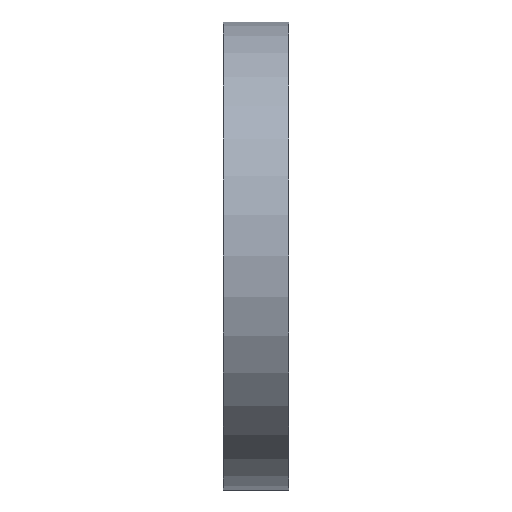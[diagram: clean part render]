
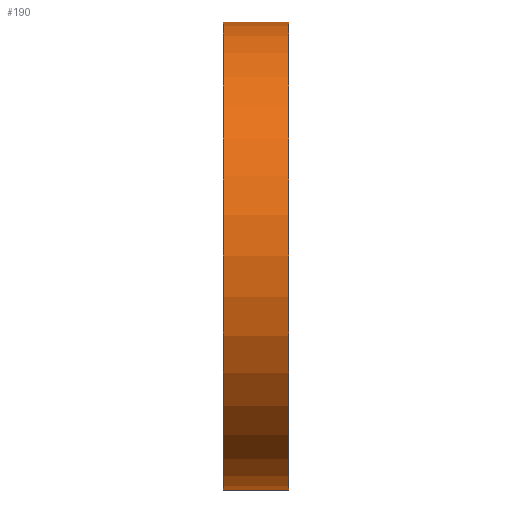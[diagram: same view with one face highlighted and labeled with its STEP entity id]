
A CAD part, left-side view. The second image highlights one B-rep face of the part: STEP entity #190.
In plain terms, the highlighted cylindrical face has radius 28.5 mm (diameter 57 mm), a partial arc.
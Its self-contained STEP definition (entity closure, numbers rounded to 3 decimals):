
#19 = CARTESIAN_POINT ( 'NONE',  ( 0., 0., 28.5 ) ) ;
#26 = CARTESIAN_POINT ( 'NONE',  ( 0., -4., -28.5 ) ) ;
#30 = DIRECTION ( 'NONE',  ( 0., 0., 1. ) ) ;
#45 = ORIENTED_EDGE ( 'NONE', *, *, #811, .T. ) ;
#49 = ORIENTED_EDGE ( 'NONE', *, *, #723, .F. ) ;
#57 = CIRCLE ( 'NONE', #301, 28.5 ) ;
#89 = CARTESIAN_POINT ( 'NONE',  ( 0., -4., 28.5 ) ) ;
#109 = CARTESIAN_POINT ( 'NONE',  ( 0., 4., -28.5 ) ) ;
#117 = CIRCLE ( 'NONE', #509, 28.5 ) ;
#125 = AXIS2_PLACEMENT_3D ( 'NONE', #717, #785, #30 ) ;
#190 = ADVANCED_FACE ( 'NONE', ( #790 ), #606, .T. ) ;
#225 = VERTEX_POINT ( 'NONE', #89 ) ;
#239 = DIRECTION ( 'NONE',  ( 0., 1., 0. ) ) ;
#259 = ORIENTED_EDGE ( 'NONE', *, *, #328, .T. ) ;
#265 = DIRECTION ( 'NONE',  ( 0., 0., 1. ) ) ;
#266 = EDGE_CURVE ( 'NONE', #592, #666, #57, .T. ) ;
#301 = AXIS2_PLACEMENT_3D ( 'NONE', #776, #496, #837 ) ;
#307 = CARTESIAN_POINT ( 'NONE',  ( 0., 4., 28.5 ) ) ;
#328 = EDGE_CURVE ( 'NONE', #225, #666, #413, .T. ) ;
#413 = LINE ( 'NONE', #19, #705 ) ;
#457 = ORIENTED_EDGE ( 'NONE', *, *, #266, .F. ) ;
#460 = DIRECTION ( 'NONE',  ( 0., 1., 0. ) ) ;
#496 = DIRECTION ( 'NONE',  ( 0., 1., 0. ) ) ;
#509 = AXIS2_PLACEMENT_3D ( 'NONE', #733, #460, #265 ) ;
#521 = VECTOR ( 'NONE', #728, 1000. ) ;
#565 = VERTEX_POINT ( 'NONE', #26 ) ;
#576 = CARTESIAN_POINT ( 'NONE',  ( 0., 0., -28.5 ) ) ;
#592 = VERTEX_POINT ( 'NONE', #109 ) ;
#606 = CYLINDRICAL_SURFACE ( 'NONE', #125, 28.5 ) ;
#666 = VERTEX_POINT ( 'NONE', #307 ) ;
#677 = EDGE_LOOP ( 'NONE', ( #49, #45, #259, #457 ) ) ;
#705 = VECTOR ( 'NONE', #239, 1000. ) ;
#717 = CARTESIAN_POINT ( 'NONE',  ( 0., 0., 0. ) ) ;
#723 = EDGE_CURVE ( 'NONE', #565, #592, #881, .T. ) ;
#728 = DIRECTION ( 'NONE',  ( 0., 1., 0. ) ) ;
#733 = CARTESIAN_POINT ( 'NONE',  ( 0., -4., 0. ) ) ;
#776 = CARTESIAN_POINT ( 'NONE',  ( 0., 4., 0. ) ) ;
#785 = DIRECTION ( 'NONE',  ( 0., 1., 0. ) ) ;
#790 = FACE_OUTER_BOUND ( 'NONE', #677, .T. ) ;
#811 = EDGE_CURVE ( 'NONE', #565, #225, #117, .T. ) ;
#837 = DIRECTION ( 'NONE',  ( 0., 0., 1. ) ) ;
#881 = LINE ( 'NONE', #576, #521 ) ;
